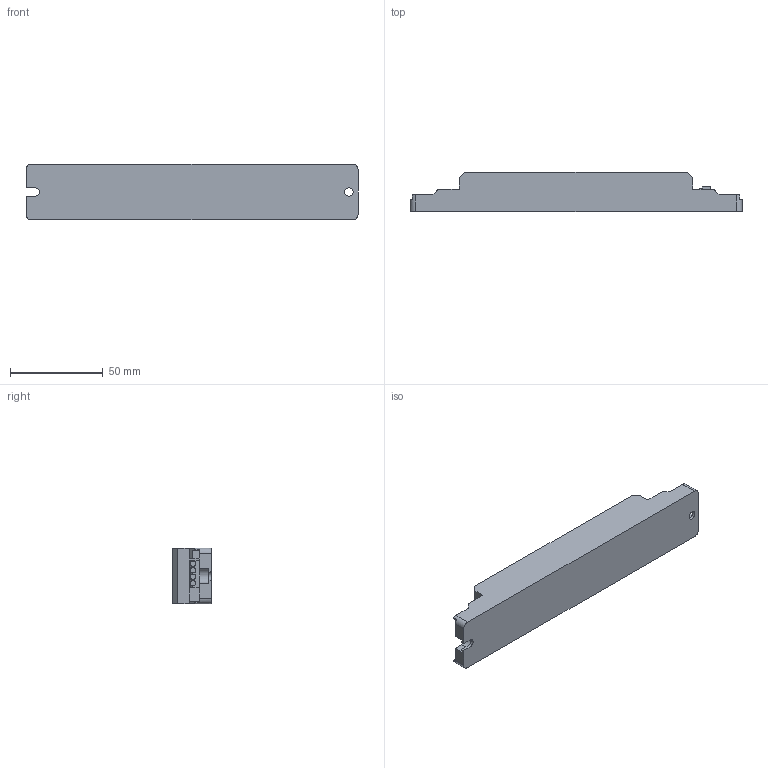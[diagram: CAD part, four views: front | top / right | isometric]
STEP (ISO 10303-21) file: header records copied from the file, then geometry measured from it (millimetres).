
FILE_DESCRIPTION((''),'2;1');
FILE_NAME('09813770Z','2018-09-27T16:58:25',('torbenh'),(''),'CREO PARAMETRIC BY PTC INC, 2017380','CREO PARAMETRIC BY PTC INC, 2017380','');
FILE_SCHEMA(('AUTOMOTIVE_DESIGN { 1 0 10303 214 1 1 1 1 }'));
Length unit declared in the file: millimetre
Products named in the file (1): 09813770Z
Bounding box: 179 x 21 x 30 mm (x, y, z)
Volume: 91351.6 mm3; surface area: 19760.8 mm2
Topology: 1 solids, 1 shells, 167 faces, 442 edges, 288 vertices
Faces by surface type: plane 126, cylinder 41
Entity records: 6903 total; most frequent: CARTESIAN_POINT 973, ORIENTED_EDGE 884, DIRECTION 854, PRESENTATION_STYLE_ASSIGNMENT 443, STYLED_ITEM 443, CURVE_STYLE 442, EDGE_CURVE 442, VECTOR 332
